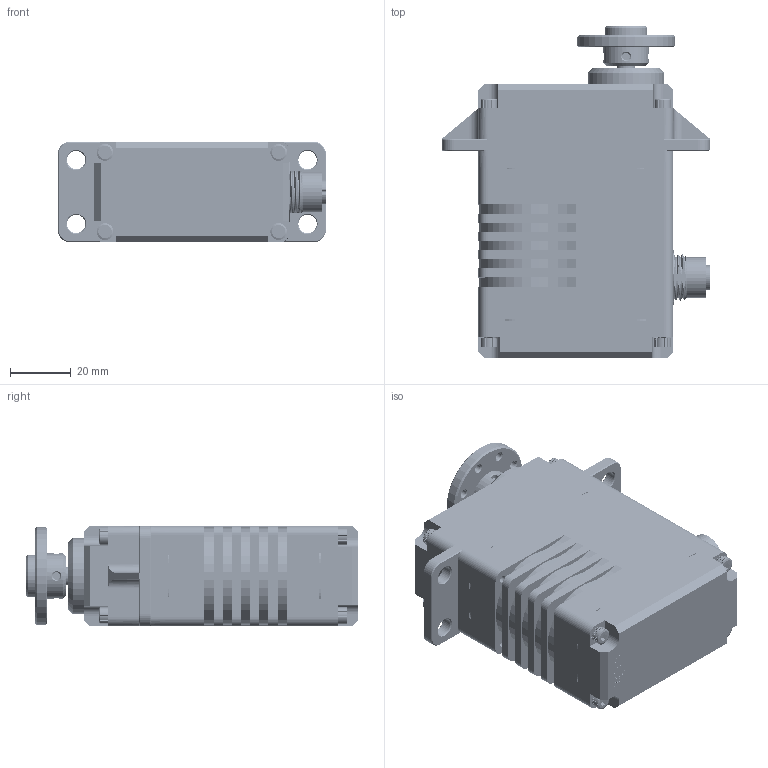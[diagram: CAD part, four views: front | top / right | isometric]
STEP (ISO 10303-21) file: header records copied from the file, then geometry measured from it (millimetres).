
FILE_DESCRIPTION((''),'2;1');
FILE_NAME('SG33BL_UBER_ASM','2020-08-05T',('±è»ó¹Î'),(''),'CREO PARAMETRIC BY PTC INC, 2016050','CREO PARAMETRIC BY PTC INC, 2016050','');
FILE_SCHEMA(('CONFIG_CONTROL_DESIGN'));
Products named in the file (15): S33T-E-G_AL6061_120101010127; 120208000043_SI_1100_T-RING; SG33BL_AL6061_HEATSINK_UBER; SG33L-SW; SG33SG4_HORN_SHAFT; S33G4_12XXXXXXXXXX_ASM; I-MOS_S45C_120217000116; 120201000114_SC_M3XL3; HSH_M3XL30_SUS_120201000141; HSH_M3X15_SUS_120201000155; 120204000002_SW_5_9X3_1; C-T4131012041-000-A-3D; C-T4131012041-000-A-_NUT; C-T4131012041-000-A-O-RING; SG33BL_UBER_ASM
Assembly tree (29 placements, depth 3):
  SG33BL_UBER_ASM
    S33T-E-G_AL6061_120101010127
    120208000043_SI_1100_T-RING  x2
    SG33BL_AL6061_HEATSINK_UBER
    SG33L-SW
    S33G4_12XXXXXXXXXX_ASM
      SG33SG4_HORN_SHAFT
    I-MOS_S45C_120217000116
    120201000114_SC_M3XL3  x2
    HSH_M3XL30_SUS_120201000141  x4
    HSH_M3X15_SUS_120201000155  x4
    120204000002_SW_5_9X3_1  x8
    C-T4131012041-000-A-3D
    C-T4131012041-000-A-_NUT
    C-T4131012041-000-A-O-RING
Bounding box: 88.1 x 109 x 33 mm (x, y, z)
Volume: 179699.5 mm3; surface area: 51053.1 mm2
Topology: 28 solids, 32 shells, 2942 faces, 8076 edges, 5234 vertices
Faces by surface type: cylinder 1383, plane 1016, bspline 321, cone 174, torus 46, sphere 2
Entity records: 88629 total; most frequent: CARTESIAN_POINT 39479, ORIENTED_EDGE 7836, DIRECTION 6784, PRESENTATION_STYLE_ASSIGNMENT 3937, EDGE_CURVE 3918, STYLED_ITEM 3783, CURVE_STYLE 3767, VERTEX_POINT 2534
